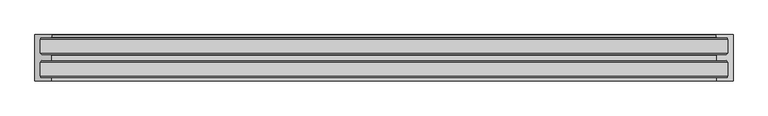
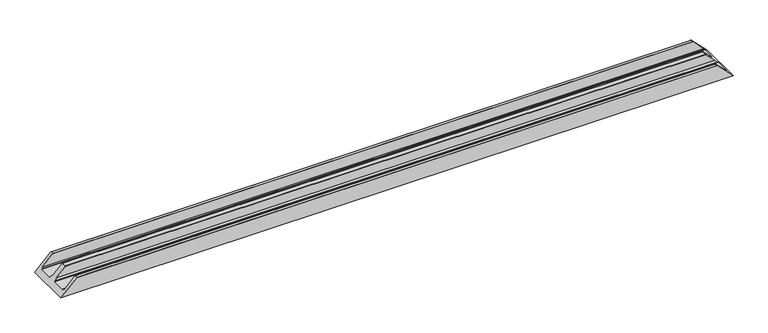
"""IFC4 building model written with IfcOpenShell, lengths in millimetres: proxy geometry, Weiku - Montante - Caixilho duplo 02.3.02.409 : Weiku - Montante - Caixilho duplo 02.3.02.409."""

from ifc_helpers import new_model, si_unit, frame, origin, place, context, project, spatial, ellipse_curve, source, transform, mapped, element, save
from ifc_brep_helpers import plane_surface, cylinder_surface, advanced_brep


def generic_models_5a7f8f36(model_context):
    return source(origin(), model_context, "Body", "AdvancedBrep", [
        advanced_brep(
        [(-1160.0, 9.8, 18.2), (-1122.3, 9.8, 55.9), (1122.3, 9.8, 55.9), (1160.0, 9.8, 18.2), (-1162.5000079, 63.85, 15.6999921), (-1162.5000079, 15.05, 15.6999921), (1162.5000079, 15.05, 15.6999921), (1162.5000079, 63.85, 15.6999921), (-1122.3000055, 69.1, 55.8999945), (-1154.3700642, 69.1, 23.8299358), (1154.3700642, 69.1, 23.8299358), (1122.3000055, 69.1, 55.8999945), (-1121.8000055, 86.65, 56.3999945), (-1121.8000055, 69.6, 56.3999945), (1121.8000055, 69.6, 56.3999945), (1121.8000055, 86.65, 56.3999945), (-1154.4236827, 87.15, 23.7763173), (-1122.3000055, 87.15, 55.8999945), (1122.3000055, 87.15, 55.8999945), (1154.4236827, 87.15, 23.7763173), (-1178.2, 156.2000166, 0.0), (1178.2, 156.2000166, 0.0), (1178.2, 0.0, 0.0), (-1178.2, 0.0, 0.0), (1122.3, 0.0, 55.9), (-1122.3, 0.0, 55.9), (-1121.8, 9.3, 56.4), (-1121.8, 0.5, 56.4), (1121.8, 0.5, 56.4), (1121.8, 9.3, 56.4), (-1160.0, 15.05, 18.2), (-1160.0, 63.85, 18.2), (-1160.0000178, 92.3500166, 18.1999822), (-1162.5000079, 92.3500166, 15.6999921), (-1162.5000079, 141.1500166, 15.6999921), (-1160.0, 141.1500166, 18.2), (-1160.0, 146.4000166, 18.2), (-1122.3, 146.4000166, 55.9), (-1121.8, 146.9000166, 56.4), (-1121.8, 155.7000166, 56.4), (-1122.3, 156.2000166, 55.9), (1122.3, 156.2000166, 55.9), (1121.8, 155.7000166, 56.4), (1121.8, 146.9000166, 56.4), (1122.3, 146.4000166, 55.9), (1160.0, 146.4000166, 18.2), (1160.0, 141.1500166, 18.2), (1162.5000079, 141.1500166, 15.6999921), (1162.5000079, 92.3500166, 15.6999921), (1160.0000178, 92.3500166, 18.1999822), (1160.0, 63.85, 18.2), (1160.0, 15.05, 18.2)],
        [
            (0, 1),
            (1, 2),
            (2, 3),
            (3, 0),
            (4, 5),
            (5, 6),
            (6, 7),
            (7, 4),
            (8, 9),
            (9, 10),
            (10, 11),
            (11, 8),
            (12, 13),
            (13, 14),
            (14, 15),
            (15, 12),
            (16, 17),
            (17, 18),
            (18, 19),
            (19, 16),
            (20, 21),
            (21, 22),
            (22, 23),
            (23, 20),
            (22, 24),
            (24, 25),
            (25, 23),
            (26, 27),
            (27, 28),
            (28, 29),
            (29, 26),
            (0, 30),
            (30, 5),
            (4, 31),
            (31, 9),
            (8, 13, ellipse_curve(frame((-1122.3000055, 69.6, 55.8999945), z_axis=(-0.7071067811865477, 0.0, 0.7071067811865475), x_axis=(-0.7071067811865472, 0.0, -0.7071067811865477)), 0.7071068, 0.5)),
            (12, 17, ellipse_curve(frame((-1122.3000055, 86.65, 55.8999945), z_axis=(-0.7071067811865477, 0.0, 0.7071067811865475), x_axis=(-0.7071067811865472, 0.0, -0.7071067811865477)), 0.7071068, 0.5)),
            (16, 32),
            (32, 33),
            (33, 34),
            (34, 35),
            (35, 36),
            (36, 37),
            (37, 38, ellipse_curve(frame((-1122.3, 146.9000166, 55.9), z_axis=(-0.7071067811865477, 0.0, 0.7071067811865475), x_axis=(-0.7071067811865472, 0.0, -0.7071067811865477)), 0.7071068, 0.5)),
            (38, 39),
            (39, 40, ellipse_curve(frame((-1122.3, 155.7000166, 55.9), z_axis=(-0.7071067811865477, 0.0, 0.7071067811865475), x_axis=(-0.7071067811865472, 0.0, -0.7071067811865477)), 0.7071068, 0.5)),
            (40, 20),
            (25, 27, ellipse_curve(frame((-1122.3, 0.5, 55.9), z_axis=(-0.7071067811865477, 0.0, 0.7071067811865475), x_axis=(-0.7071067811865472, 0.0, -0.7071067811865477)), 0.7071068, 0.5)),
            (26, 1, ellipse_curve(frame((-1122.3, 9.3, 55.9), z_axis=(-0.7071067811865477, 0.0, 0.7071067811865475), x_axis=(-0.7071067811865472, 0.0, -0.7071067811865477)), 0.7071068, 0.5)),
            (2, 29, ellipse_curve(frame((1122.3, 9.3, 55.9), z_axis=(0.7071067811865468, 0.0, 0.7071067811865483), x_axis=(-0.7071067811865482, 0.0, 0.7071067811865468)), 0.7071068, 0.5)),
            (28, 24, ellipse_curve(frame((1122.3, 0.5, 55.9), z_axis=(0.7071067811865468, 0.0, 0.7071067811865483), x_axis=(-0.7071067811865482, 0.0, 0.7071067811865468)), 0.7071068, 0.5)),
            (21, 41),
            (41, 42, ellipse_curve(frame((1122.3, 155.7000166, 55.9), z_axis=(0.7071067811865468, 0.0, 0.7071067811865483), x_axis=(-0.7071067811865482, 0.0, 0.7071067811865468)), 0.7071068, 0.5)),
            (42, 43),
            (43, 44, ellipse_curve(frame((1122.3, 146.9000166, 55.9), z_axis=(0.7071067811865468, 0.0, 0.7071067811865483), x_axis=(-0.7071067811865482, 0.0, 0.7071067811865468)), 0.7071068, 0.5)),
            (44, 45),
            (45, 46),
            (46, 47),
            (47, 48),
            (48, 49),
            (49, 19),
            (18, 15, ellipse_curve(frame((1122.3000055, 86.65, 55.8999945), z_axis=(0.7071067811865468, 0.0, 0.7071067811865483), x_axis=(-0.7071067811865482, 0.0, 0.7071067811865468)), 0.7071068, 0.5)),
            (14, 11, ellipse_curve(frame((1122.3000055, 69.6, 55.8999945), z_axis=(0.7071067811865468, 0.0, 0.7071067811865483), x_axis=(-0.7071067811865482, 0.0, 0.7071067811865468)), 0.7071068, 0.5)),
            (10, 50),
            (50, 7),
            (6, 51),
            (51, 3),
            (51, 30),
            (50, 31),
            (49, 32),
            (48, 33),
            (47, 34),
            (46, 35),
            (45, 36),
            (44, 37),
            (38, 43),
            (42, 39),
            (41, 40),
        ],
        [
            plane_surface(frame((-1178.2, 9.8, 55.9), z_axis=(0.0, 1.0, 0.0), x_axis=(1.0, 0.0, 0.0))),
            plane_surface(frame((-1178.2, 15.05, 15.6999921), z_axis=(0.0, 0.0, 1.0), x_axis=(1.0, 0.0, 0.0))),
            plane_surface(frame((-1178.2, 69.1, 23.8299358), z_axis=(0.0, -1.0, 0.0), x_axis=(1.0, 0.0, 0.0))),
            plane_surface(frame((-1178.2, 69.6, 56.3999945), z_axis=(0.0, 0.0, 1.0), x_axis=(1.0, 0.0, 0.0))),
            plane_surface(frame((-1178.2, 87.15, 55.8999945), z_axis=(0.0, 1.0, 0.0), x_axis=(1.0, 0.0, 0.0))),
            plane_surface(frame((-1178.2, 156.2000166, 0.0), z_axis=(0.0, 0.0, -1.0), x_axis=(1.0, 0.0, 0.0))),
            plane_surface(frame((-1178.2, 0.0, 0.0), z_axis=(0.0, -1.0, 0.0), x_axis=(1.0, 0.0, 0.0))),
            plane_surface(frame((-1178.2, 0.5, 56.4), z_axis=(0.0, 0.0, 1.0), x_axis=(1.0, 0.0, 0.0))),
            plane_surface(frame((-1178.2, 0.0, 0.0), z_axis=(-0.7071067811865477, 0.0, 0.7071067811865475), x_axis=(0.0, 1.0, 0.0))),
            plane_surface(frame((1118.2, 0.0, 60.0), z_axis=(0.7071067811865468, 0.0, 0.7071067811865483), x_axis=(0.0, 1.0, 0.0))),
            plane_surface(frame((-1178.2, 9.8, 18.2), z_axis=(0.0, 0.0, 1.0), x_axis=(1.0, 0.0, 0.0))),
            plane_surface(frame((-1178.2, 15.05, 18.2), z_axis=(0.0, 1.0, 0.0), x_axis=(1.0, 0.0, 0.0))),
            plane_surface(frame((-1178.2, 63.85, 15.6999921), z_axis=(0.0, -1.0, 0.0), x_axis=(1.0, 0.0, 0.0))),
            plane_surface(frame((-1178.2, 63.85, 18.2), z_axis=(0.0, -0.7313537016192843, 0.6819983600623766), x_axis=(1.0, 0.0, 0.0))),
            cylinder_surface(frame((-1178.2, 86.65, 55.8999945), z_axis=(-1.0, 0.0, 0.0), x_axis=(0.0, 1.0, 0.0)), 0.5),
            cylinder_surface(frame((-1178.2, 0.5, 55.9), z_axis=(-1.0, 0.0, 0.0), x_axis=(0.0, 1.0, 0.0)), 0.5),
            plane_surface(frame((-1178.2, 87.15, 23.7763173), z_axis=(0.0, 0.7313537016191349, 0.6819983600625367), x_axis=(1.0, 0.0, 0.0))),
            plane_surface(frame((-1178.2, 92.3500166, 18.1999822), z_axis=(0.0, 1.0, 0.0), x_axis=(1.0, 0.0, 0.0))),
            plane_surface(frame((-1178.2, 92.3500166, 15.6999921), z_axis=(0.0, 0.0, 1.0), x_axis=(1.0, 0.0, 0.0))),
            plane_surface(frame((-1178.2, 141.1500166, 15.6999921), z_axis=(0.0, -1.0, 0.0), x_axis=(1.0, 0.0, 0.0))),
            plane_surface(frame((-1178.2, 141.1500166, 18.2), z_axis=(0.0, 0.0, 1.0), x_axis=(1.0, 0.0, 0.0))),
            plane_surface(frame((-1178.2, 146.4000166, 18.2), z_axis=(0.0, -1.0, 0.0), x_axis=(1.0, 0.0, 0.0))),
            plane_surface(frame((-1178.2, 146.9000166, 56.4), z_axis=(0.0, 0.0, 1.0), x_axis=(1.0, 0.0, 0.0))),
            cylinder_surface(frame((-1178.2, 155.7000166, 55.9), z_axis=(-1.0, 0.0, 0.0), x_axis=(0.0, -1.0, 0.0)), 0.5),
            plane_surface(frame((-1178.2, 156.2000166, 55.9), z_axis=(0.0, 1.0, 0.0), x_axis=(1.0, 0.0, 0.0))),
            cylinder_surface(frame((-1178.2, 9.3, 55.9), z_axis=(-1.0, 0.0, 0.0), x_axis=(0.0, 1.0, 0.0)), 0.5),
            cylinder_surface(frame((-1178.2, 69.6, 55.8999945), z_axis=(-1.0, 0.0, 0.0), x_axis=(0.0, 1.0, 0.0)), 0.5),
            cylinder_surface(frame((-1178.2, 146.9000166, 55.9), z_axis=(-1.0, 0.0, 0.0), x_axis=(0.0, 1.0, 0.0)), 0.5),
        ],
        [
            (0, [[1, 2, 3, 4]]),
            (1, [[5, 6, 7, 8]]),
            (2, [[9, 10, 11, 12]]),
            (3, [[13, 14, 15, 16]]),
            (4, [[17, 18, 19, 20]]),
            (5, [[21, 22, 23, 24]]),
            (6, [[-23, 25, 26, 27]]),
            (7, [[28, 29, 30, 31]]),
            (8, [[-1, 32, 33, -5, 34, 35, -9, 36, -13, 37, -17, 38, 39, 40, 41, 42, 43, 44, 45, 46, 47, -24, -27, 48, -28, 49]]),
            (9, [[-3, 50, -30, 51, -25, -22, 52, 53, 54, 55, 56, 57, 58, 59, 60, 61, -19, 62, -15, 63, -11, 64, 65, -7, 66, 67]]),
            (10, [[-32, -4, -67, 68]]),
            (11, [[-33, -68, -66, -6]]),
            (12, [[-34, -8, -65, 69]]),
            (13, [[-35, -69, -64, -10]]),
            (14, [[-37, -16, -62, -18]]),
            (15, [[-48, -26, -51, -29]]),
            (16, [[-38, -20, -61, 70]]),
            (17, [[-39, -70, -60, 71]]),
            (18, [[-40, -71, -59, 72]]),
            (19, [[-41, -72, -58, 73]]),
            (20, [[-42, -73, -57, 74]]),
            (21, [[-43, -74, -56, 75]]),
            (22, [[-45, 76, -54, 77]]),
            (23, [[-46, -77, -53, 78]]),
            (24, [[-21, -47, -78, -52]]),
            (25, [[-49, -31, -50, -2]]),
            (26, [[-36, -12, -63, -14]]),
            (27, [[-44, -75, -55, -76]]),
        ],
    ),
    ])


if __name__ == "__main__":
    model = new_model("IFC4")
    model_context = context("Model", 3, world=origin())
    ifc_project = project(units=[si_unit("LENGTHUNIT", "METRE", prefix="MILLI")], contexts=[model_context])
    site = spatial("IfcSite", under=ifc_project)
    building = spatial("IfcBuilding", under=site)
    placement = place(None, origin())
    generic_models_shape = generic_models_5a7f8f36(model_context)
    element("IfcBuildingElementProxy", 1, Name="Weiku - Montante - Caixilho duplo 02.3.02.409 : Weiku - Montante - Caixilho duplo 02.3.02.409", ObjectType="Weiku - Montante - Caixilho duplo 02.3.02.409 : Weiku - Montante - Caixilho duplo 02.3.02.409", at=placement, inside=building, context=model_context, shape_type="MappedRepresentation", body=[
        mapped(generic_models_shape, transform((0.0, 0.0, 0.0), x_axis=(1.0, 0.0, 0.0), y_axis=(0.0, 1.0, 0.0), z_axis=(0.0, 0.0, 1.0))),
    ])
    save(model, "model.ifc")
